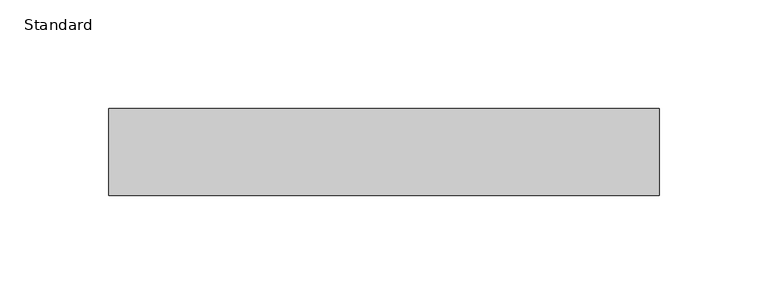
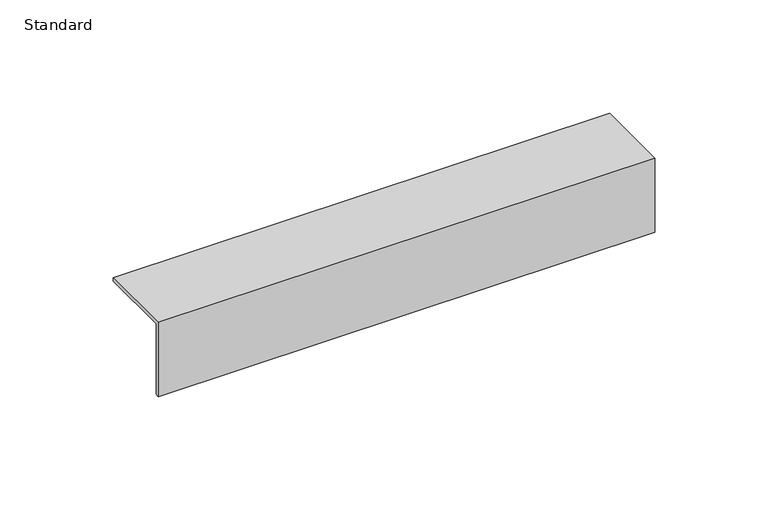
"""IFC4 building model written with IfcOpenShell, lengths in millimetres: furniture geometry, X_Vanity-Angle-Duracube-Bench Support : Standard."""

from ifc_helpers import new_model, si_unit, frame, origin, place, context, project, spatial, polyline, outline, extrude, source, transform, mapped, element, save


def standard_ffa01ccc(model_context):
    return source(origin(), model_context, "Body", "SweptSolid", [
        extrude(outline(polyline([(0.0, 0.0), (0.0, 40.0), (40.0, 40.0), (40.0, 38.0), (2.0, 38.0), (2.0, 0.0), (0.0, 0.0)])), frame((-82.0496736, 0.0, 0.0), z_axis=(1.0, 0.0, 0.0), x_axis=(0.0, 1.0, 0.0)), (0.0, 0.0, 1.0), 253.5),
    ])


if __name__ == "__main__":
    model = new_model("IFC4")
    model_context = context("Model", 3, world=origin())
    ifc_project = project(units=[si_unit("LENGTHUNIT", "METRE", prefix="MILLI")], contexts=[model_context])
    site = spatial("IfcSite", under=ifc_project)
    building = spatial("IfcBuilding", under=site)
    placement = place(None, origin())
    standard_shape = standard_ffa01ccc(model_context)
    element("IfcFurniture", 1, ObjectType="X_Vanity-Angle-Duracube-Bench Support : Standard", at=placement, inside=building, context=model_context, shape_type="MappedRepresentation", body=[
        mapped(standard_shape, transform((0.0, 0.0, 0.0), x_axis=(1.0, 0.0, 0.0), y_axis=(0.0, 1.0, 0.0), z_axis=(0.0, 0.0, 1.0))),
    ])
    save(model, "model.ifc")
